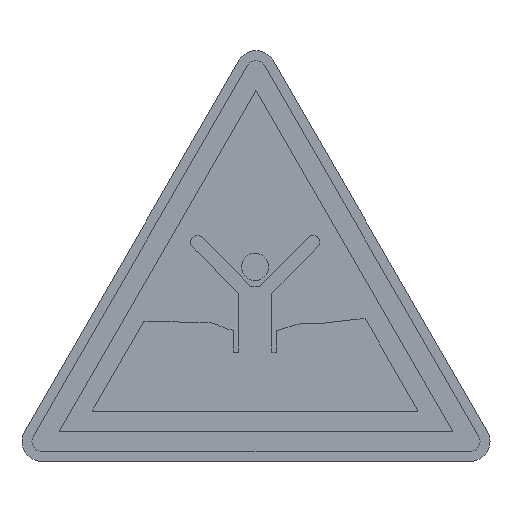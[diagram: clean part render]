
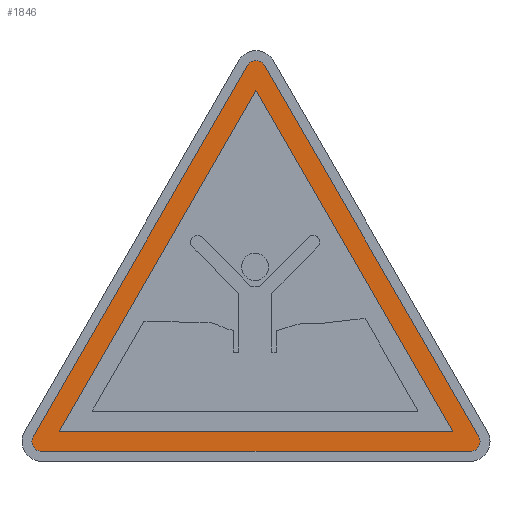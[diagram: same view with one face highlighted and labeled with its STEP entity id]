
A CAD part, top view. The second image highlights one B-rep face of the part: STEP entity #1846.
In plain terms, the highlighted planar face has unit normal (0, 0, 1).
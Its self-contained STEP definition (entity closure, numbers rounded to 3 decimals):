
#9 = PLANE ( 'NONE',  #199 ) ;
#28 = DIRECTION ( 'NONE',  ( 0., 0., 1. ) ) ;
#62 = EDGE_LOOP ( 'NONE', ( #2772, #611, #1739 ) ) ;
#118 = CARTESIAN_POINT ( 'NONE',  ( -21.536, 2., 0.22 ) ) ;
#123 = ORIENTED_EDGE ( 'NONE', *, *, #3381, .T. ) ;
#198 = VECTOR ( 'NONE', #1251, 1000. ) ;
#199 = AXIS2_PLACEMENT_3D ( 'NONE', #2938, #1609, #859 ) ;
#226 = CARTESIAN_POINT ( 'NONE',  ( -21.536, 1., 0.22 ) ) ;
#229 = CARTESIAN_POINT ( 'NONE',  ( -0.866, 39.801, 0.22 ) ) ;
#236 = ORIENTED_EDGE ( 'NONE', *, *, #2960, .T. ) ;
#248 = CIRCLE ( 'NONE', #355, 1. ) ;
#254 = VECTOR ( 'NONE', #3203, 1000. ) ;
#284 = LINE ( 'NONE', #3359, #1397 ) ;
#355 = AXIS2_PLACEMENT_3D ( 'NONE', #536, #28, #552 ) ;
#366 = LINE ( 'NONE', #1877, #2286 ) ;
#484 = EDGE_CURVE ( 'NONE', #719, #2426, #2861, .T. ) ;
#492 = EDGE_LOOP ( 'NONE', ( #2547, #1402, #497, #2063, #123, #1590, #236 ) ) ;
#497 = ORIENTED_EDGE ( 'NONE', *, *, #2740, .T. ) ;
#536 = CARTESIAN_POINT ( 'NONE',  ( -21.536, 2., 0.22 ) ) ;
#552 = DIRECTION ( 'NONE',  ( 1., 0., 0. ) ) ;
#558 = CARTESIAN_POINT ( 'NONE',  ( -22.536, 2., 0.22 ) ) ;
#593 = DIRECTION ( 'NONE',  ( 1., 0., 0. ) ) ;
#597 = CIRCLE ( 'NONE', #2471, 1. ) ;
#611 = ORIENTED_EDGE ( 'NONE', *, *, #2135, .F. ) ;
#656 = DIRECTION ( 'NONE',  ( 0., 0., 1. ) ) ;
#687 = VERTEX_POINT ( 'NONE', #931 ) ;
#719 = VERTEX_POINT ( 'NONE', #1161 ) ;
#791 = VECTOR ( 'NONE', #1008, 1000. ) ;
#859 = DIRECTION ( 'NONE',  ( 1., 0., 0. ) ) ;
#892 = VERTEX_POINT ( 'NONE', #3005 ) ;
#931 = CARTESIAN_POINT ( 'NONE',  ( 0.866, 39.801, 0.22 ) ) ;
#1008 = DIRECTION ( 'NONE',  ( -0.5, 0.866, 0. ) ) ;
#1040 = EDGE_CURVE ( 'NONE', #892, #1827, #1376, .T. ) ;
#1106 = VERTEX_POINT ( 'NONE', #1948 ) ;
#1146 = DIRECTION ( 'NONE',  ( 1., 0., 0. ) ) ;
#1161 = CARTESIAN_POINT ( 'NONE',  ( 19.804, 3., 0.22 ) ) ;
#1251 = DIRECTION ( 'NONE',  ( 1., 0., 0. ) ) ;
#1288 = CARTESIAN_POINT ( 'NONE',  ( 19.804, 3., 0.22 ) ) ;
#1311 = VERTEX_POINT ( 'NONE', #1908 ) ;
#1376 = CIRCLE ( 'NONE', #1483, 1. ) ;
#1382 = VECTOR ( 'NONE', #3168, 1000. ) ;
#1397 = VECTOR ( 'NONE', #1794, 1000. ) ;
#1402 = ORIENTED_EDGE ( 'NONE', *, *, #1549, .T. ) ;
#1468 = DIRECTION ( 'NONE',  ( 1., 0., 0. ) ) ;
#1483 = AXIS2_PLACEMENT_3D ( 'NONE', #2393, #2701, #1848 ) ;
#1515 = LINE ( 'NONE', #226, #198 ) ;
#1549 = EDGE_CURVE ( 'NONE', #1311, #1106, #2113, .T. ) ;
#1590 = ORIENTED_EDGE ( 'NONE', *, *, #1040, .T. ) ;
#1609 = DIRECTION ( 'NONE',  ( 0., 0., 1. ) ) ;
#1628 = CARTESIAN_POINT ( 'NONE',  ( 0., 37.301, 0.22 ) ) ;
#1739 = ORIENTED_EDGE ( 'NONE', *, *, #484, .F. ) ;
#1764 = DIRECTION ( 'NONE',  ( 0., 0., 1. ) ) ;
#1794 = DIRECTION ( 'NONE',  ( -0.5, -0.866, 0. ) ) ;
#1827 = VERTEX_POINT ( 'NONE', #2078 ) ;
#1846 = ADVANCED_FACE ( 'NONE', ( #2621, #2360 ), #9, .T. ) ;
#1848 = DIRECTION ( 'NONE',  ( 1., 0., 0. ) ) ;
#1860 = CARTESIAN_POINT ( 'NONE',  ( 22.402, 2.5, 0.22 ) ) ;
#1877 = CARTESIAN_POINT ( 'NONE',  ( -19.804, 3., 0.22 ) ) ;
#1908 = CARTESIAN_POINT ( 'NONE',  ( -0.866, 39.801, 0.22 ) ) ;
#1928 = AXIS2_PLACEMENT_3D ( 'NONE', #118, #656, #1146 ) ;
#1948 = CARTESIAN_POINT ( 'NONE',  ( -22.402, 2.5, 0.22 ) ) ;
#2063 = ORIENTED_EDGE ( 'NONE', *, *, #2319, .T. ) ;
#2066 = CARTESIAN_POINT ( 'NONE',  ( 0., 39.301, 0.22 ) ) ;
#2078 = CARTESIAN_POINT ( 'NONE',  ( 22.402, 2.5, 0.22 ) ) ;
#2113 = LINE ( 'NONE', #229, #1382 ) ;
#2135 = EDGE_CURVE ( 'NONE', #2426, #2941, #284, .T. ) ;
#2202 = EDGE_CURVE ( 'NONE', #2941, #719, #366, .T. ) ;
#2286 = VECTOR ( 'NONE', #593, 1000. ) ;
#2306 = CARTESIAN_POINT ( 'NONE',  ( -21.536, 1., 0.22 ) ) ;
#2319 = EDGE_CURVE ( 'NONE', #2971, #2884, #3039, .T. ) ;
#2360 = FACE_BOUND ( 'NONE', #62, .T. ) ;
#2389 = CARTESIAN_POINT ( 'NONE',  ( -19.804, 3., 0.22 ) ) ;
#2393 = CARTESIAN_POINT ( 'NONE',  ( 21.536, 2., 0.22 ) ) ;
#2426 = VERTEX_POINT ( 'NONE', #1628 ) ;
#2471 = AXIS2_PLACEMENT_3D ( 'NONE', #2066, #1764, #1468 ) ;
#2547 = ORIENTED_EDGE ( 'NONE', *, *, #2655, .T. ) ;
#2621 = FACE_OUTER_BOUND ( 'NONE', #492, .T. ) ;
#2655 = EDGE_CURVE ( 'NONE', #687, #1311, #597, .T. ) ;
#2701 = DIRECTION ( 'NONE',  ( 0., 0., 1. ) ) ;
#2740 = EDGE_CURVE ( 'NONE', #1106, #2971, #248, .T. ) ;
#2772 = ORIENTED_EDGE ( 'NONE', *, *, #2202, .F. ) ;
#2861 = LINE ( 'NONE', #1288, #791 ) ;
#2884 = VERTEX_POINT ( 'NONE', #2306 ) ;
#2938 = CARTESIAN_POINT ( 'NONE',  ( 0., 39.301, 0.22 ) ) ;
#2941 = VERTEX_POINT ( 'NONE', #2389 ) ;
#2960 = EDGE_CURVE ( 'NONE', #1827, #687, #3179, .T. ) ;
#2971 = VERTEX_POINT ( 'NONE', #558 ) ;
#3005 = CARTESIAN_POINT ( 'NONE',  ( 21.536, 1., 0.22 ) ) ;
#3039 = CIRCLE ( 'NONE', #1928, 1. ) ;
#3168 = DIRECTION ( 'NONE',  ( -0.5, -0.866, 0. ) ) ;
#3179 = LINE ( 'NONE', #1860, #254 ) ;
#3203 = DIRECTION ( 'NONE',  ( -0.5, 0.866, 0. ) ) ;
#3359 = CARTESIAN_POINT ( 'NONE',  ( 0., 37.301, 0.22 ) ) ;
#3381 = EDGE_CURVE ( 'NONE', #2884, #892, #1515, .T. ) ;
